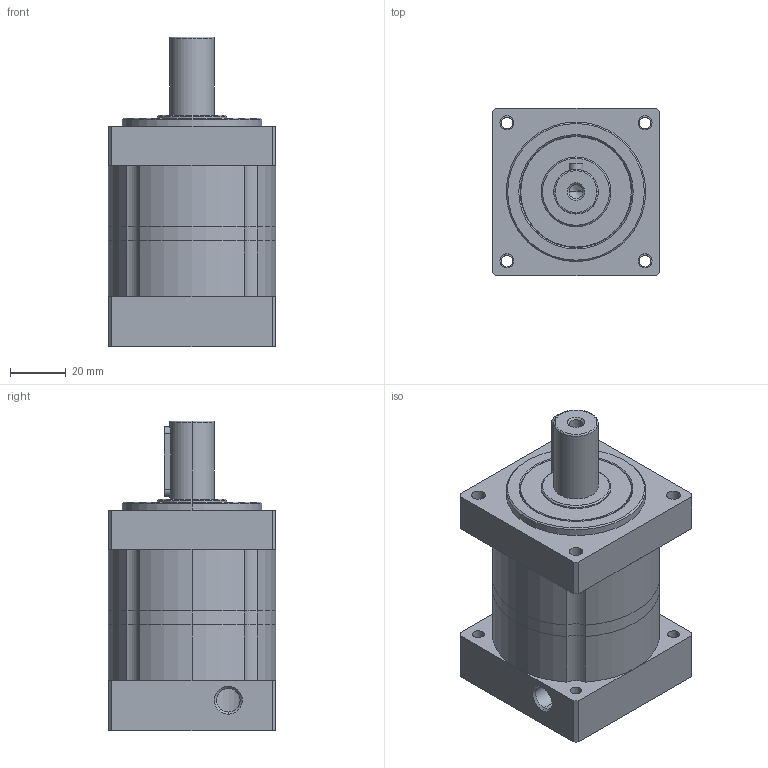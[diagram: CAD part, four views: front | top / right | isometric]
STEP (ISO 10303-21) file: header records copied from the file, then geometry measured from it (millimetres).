
FILE_DESCRIPTION (( 'STEP AP214' ), '1' );
FILE_NAME ('LX-060-005-Rev1.STEP', '2014-06-26T15:54:15', ( '' ), ( '' ), 'SwSTEP 2.0', 'SolidWorks 2014', '' );
FILE_SCHEMA (( 'AUTOMOTIVE_DESIGN' ));
Length unit declared in the file: millimetre
Products named in the file (1): LX-060-005-Rev1
Bounding box: 60 x 60 x 111 mm (x, y, z)
Volume: 168793.1 mm3; surface area: 56026.7 mm2
Topology: 7 solids, 7 shells, 161 faces, 386 edges, 243 vertices
Faces by surface type: cylinder 92, plane 42, cone 25, torus 2
Entity records: 6598 total; most frequent: CARTESIAN_POINT 937, DIRECTION 909, ORIENTED_EDGE 768, EDGE_CURVE 384, AXIS2_PLACEMENT_3D 370, VERTEX_POINT 243, CIRCLE 208, EDGE_LOOP 195
